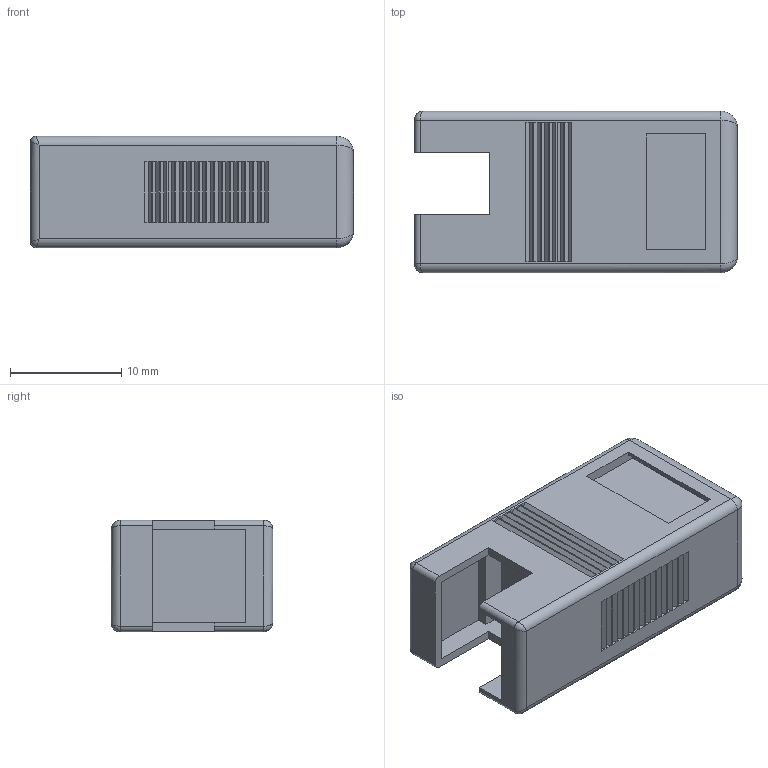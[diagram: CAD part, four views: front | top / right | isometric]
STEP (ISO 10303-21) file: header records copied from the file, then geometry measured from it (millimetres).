
FILE_DESCRIPTION((''),'2;1');
FILE_NAME('CU_NI-9971','2016-03-14T',('dkendric'),(''),'PRO/ENGINEER BY PARAMETRIC TECHNOLOGY CORPORATION, 2015280','PRO/ENGINEER BY PARAMETRIC TECHNOLOGY CORPORATION, 2015280','');
FILE_SCHEMA(('CONFIG_CONTROL_DESIGN'));
Length unit declared in the file: inch
Products named in the file (1): CU_NI-9971
Bounding box: 29 x 14.5 x 10.01 mm (x, y, z)
Volume: 3023.6 mm3; surface area: 2253.5 mm2
Topology: 1 solids, 1 shells, 348 faces, 831 edges, 538 vertices
Faces by surface type: plane 288, cylinder 50, bspline 8, torus 2
Entity records: 11532 total; most frequent: CARTESIAN_POINT 3422, ORIENTED_EDGE 1646, DIRECTION 1571, EDGE_CURVE 823, VECTOR 723, LINE 723, VERTEX_POINT 538, AXIS2_PLACEMENT_3D 424
